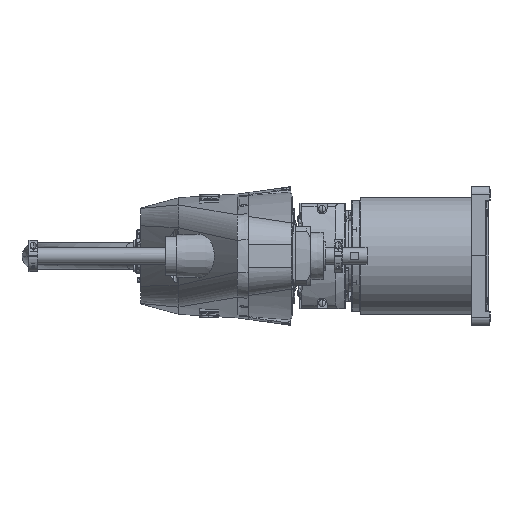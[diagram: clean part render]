
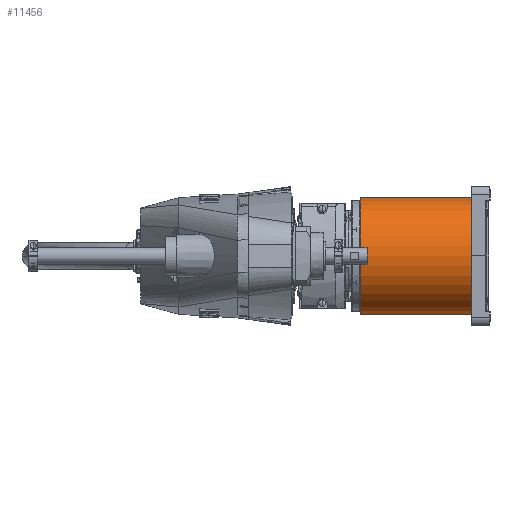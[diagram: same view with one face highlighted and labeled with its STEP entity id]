
A CAD part, left-side view. The second image highlights one B-rep face of the part: STEP entity #11456.
In plain terms, the highlighted cylindrical face has radius 71 mm (diameter 142 mm), a partial arc.
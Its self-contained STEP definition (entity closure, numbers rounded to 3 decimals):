
#1197 = CYLINDRICAL_SURFACE ( 'NONE', #9941, 71. ) ;
#3299 = DIRECTION ( 'NONE',  ( 0., -1., 0. ) ) ;
#4186 = VERTEX_POINT ( 'NONE', #109345 ) ;
#7504 = EDGE_CURVE ( 'NONE', #71069, #16652, #39600, .T. ) ;
#9941 = AXIS2_PLACEMENT_3D ( 'NONE', #15948, #34527, #52586 ) ;
#11456 = ADVANCED_FACE ( 'NONE', ( #93865 ), #1197, .T. ) ;
#12092 = LINE ( 'NONE', #99589, #88293 ) ;
#12404 = CARTESIAN_POINT ( 'NONE',  ( 0., 157.5, 0. ) ) ;
#13475 = ORIENTED_EDGE ( 'NONE', *, *, #77551, .F. ) ;
#15948 = CARTESIAN_POINT ( 'NONE',  ( 0., 166.5, 0. ) ) ;
#16008 = CARTESIAN_POINT ( 'NONE',  ( 0., 166.5, -71. ) ) ;
#16652 = VERTEX_POINT ( 'NONE', #87362 ) ;
#20785 = CARTESIAN_POINT ( 'NONE',  ( 0., 22., 0. ) ) ;
#22675 = CIRCLE ( 'NONE', #98358, 71. ) ;
#25217 = ORIENTED_EDGE ( 'NONE', *, *, #72550, .F. ) ;
#34527 = DIRECTION ( 'NONE',  ( 0., -1., 0. ) ) ;
#34573 = EDGE_CURVE ( 'NONE', #71069, #82425, #41945, .T. ) ;
#38030 = DIRECTION ( 'NONE',  ( 0., -1., 0. ) ) ;
#39600 = CIRCLE ( 'NONE', #72553, 71. ) ;
#40845 = DIRECTION ( 'NONE',  ( 0., -1., 0. ) ) ;
#41478 = CARTESIAN_POINT ( 'NONE',  ( 0., 22., -71. ) ) ;
#41945 = LINE ( 'NONE', #16008, #43577 ) ;
#43577 = VECTOR ( 'NONE', #40845, 1000. ) ;
#52586 = DIRECTION ( 'NONE',  ( 0., 0., -1. ) ) ;
#70448 = DIRECTION ( 'NONE',  ( 0.166, 0., 0.986 ) ) ;
#71069 = VERTEX_POINT ( 'NONE', #86482 ) ;
#72550 = EDGE_CURVE ( 'NONE', #4186, #82425, #22675, .T. ) ;
#72553 = AXIS2_PLACEMENT_3D ( 'NONE', #12404, #88663, #90321 ) ;
#72654 = EDGE_LOOP ( 'NONE', ( #13475, #109022, #77489, #25217 ) ) ;
#77489 = ORIENTED_EDGE ( 'NONE', *, *, #34573, .T. ) ;
#77551 = EDGE_CURVE ( 'NONE', #16652, #4186, #12092, .T. ) ;
#82425 = VERTEX_POINT ( 'NONE', #41478 ) ;
#86482 = CARTESIAN_POINT ( 'NONE',  ( 0., 157.5, -71. ) ) ;
#87362 = CARTESIAN_POINT ( 'NONE',  ( 0., 157.5, 71. ) ) ;
#88293 = VECTOR ( 'NONE', #38030, 1000. ) ;
#88663 = DIRECTION ( 'NONE',  ( 0., 1., 0. ) ) ;
#90321 = DIRECTION ( 'NONE',  ( -1., 0., 0. ) ) ;
#93865 = FACE_OUTER_BOUND ( 'NONE', #72654, .T. ) ;
#98358 = AXIS2_PLACEMENT_3D ( 'NONE', #20785, #3299, #70448 ) ;
#99589 = CARTESIAN_POINT ( 'NONE',  ( 0., 166.5, 71. ) ) ;
#109022 = ORIENTED_EDGE ( 'NONE', *, *, #7504, .F. ) ;
#109345 = CARTESIAN_POINT ( 'NONE',  ( 0., 22., 71. ) ) ;
